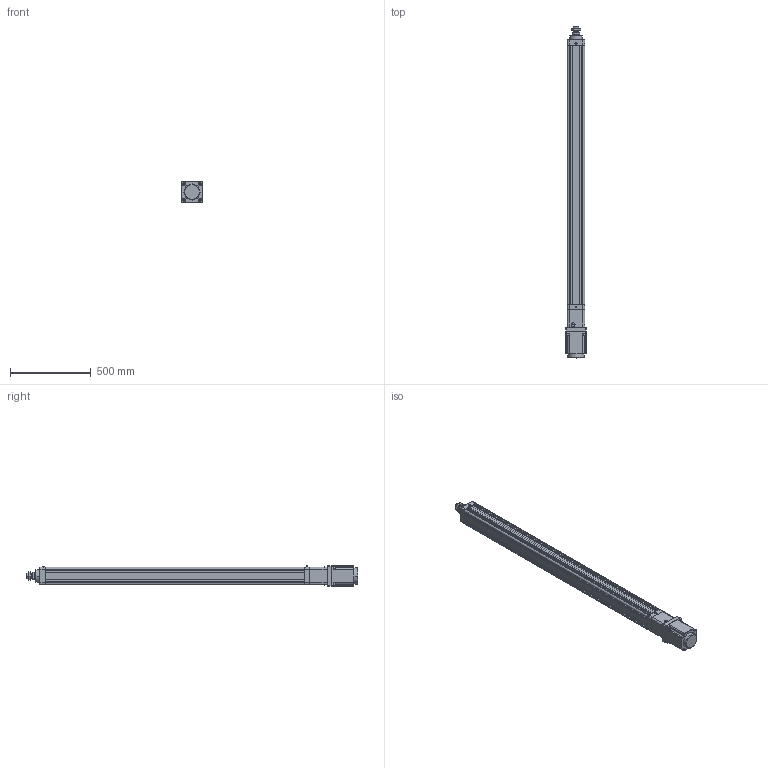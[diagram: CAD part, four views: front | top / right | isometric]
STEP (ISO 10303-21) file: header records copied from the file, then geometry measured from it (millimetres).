
FILE_DESCRIPTION((''),'2;1');
FILE_NAME('HE100-D-P_ASM','2020-03-31T',('ASUS20200'),(''),'CREO PARAMETRIC BY PTC INC, 2014190','CREO PARAMETRIC BY PTC INC, 2014190','');
FILE_SCHEMA(('CONFIG_CONTROL_DESIGN'));
Length unit declared in the file: millimetre
Products named in the file (20): HE100-D-P-001-X1; HE100-D-P-002-X1; HE100-D-P-003-X1; 30305J; JDB506030; SLM-01; YZ-M6X1; HE100-100-D-P-X1_ASM; HE100-D-009-X1; HE100-D-010-X1-130N; M8X20; 130ST-M10010; TD-8; M8X40; SKT-20; HE100-D-P-005-X1; HE100-D-P-004-X1; HE80-D-P-008-X1; LGLM-M10-25; HE100-D-P_ASM
Assembly tree (33 placements, depth 3):
  HE100-D-P_ASM
    HE100-100-D-P-X1_ASM
      HE100-D-P-001-X1
      HE100-D-P-002-X1
      HE100-D-P-003-X1
      30305J  x2
      JDB506030
      SLM-01
      YZ-M6X1
    HE100-D-009-X1
    HE100-D-010-X1-130N
    M8X20  x4
    130ST-M10010
    TD-8  x4
    M8X40  x4
    SKT-20  x2
    HE100-D-P-005-X1
    HE100-D-P-004-X1
    HE80-D-P-008-X1
    LGLM-M10-25  x4
Bounding box: 130 x 2061 x 130 mm (x, y, z)
Volume: 9304019.8 mm3; surface area: 2567584.8 mm2
Topology: 32 solids, 55 shells, 1489 faces, 3469 edges, 2126 vertices
Faces by surface type: plane 512, cylinder 439, cone 422, torus 82, sphere 30, bspline 4
Entity records: 34656 total; most frequent: CARTESIAN_POINT 6683, DIRECTION 6240, ORIENTED_EDGE 5324, EDGE_CURVE 2705, AXIS2_PLACEMENT_3D 2429, VERTEX_POINT 1660, VECTOR 1382, LINE 1382
